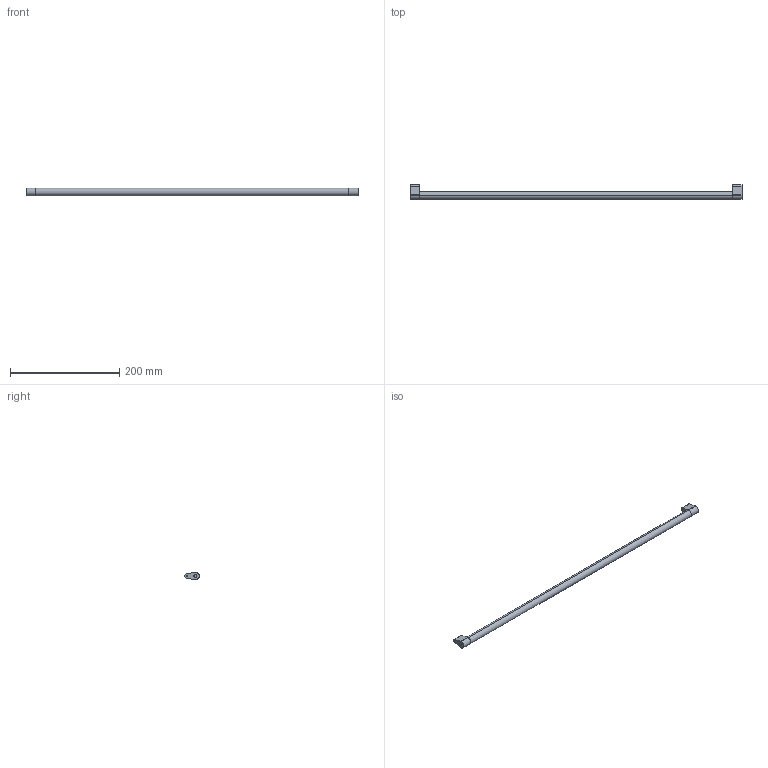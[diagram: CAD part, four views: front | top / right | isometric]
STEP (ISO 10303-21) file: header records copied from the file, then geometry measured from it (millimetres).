
FILE_DESCRIPTION (( 'STEP AP214' ), '1' );
FILE_NAME ('_Synchronisationseinheit DWD XP KAB700_S16.step', '2010-07-08T13:58:18', ( 'grass' ), ( '' ), 'SwSTEP 2.0', 'SolidWorks 2010', '' );
FILE_SCHEMA (( 'AUTOMOTIVE_DESIGN' ));
Length unit declared in the file: millimetre
Products named in the file (1): _Synchronisationseinheit DWD XP KAB700_S16
Bounding box: 607 x 26.5 x 14 mm (x, y, z)
Volume: 97127.2 mm3; surface area: 29544.2 mm2
Topology: 3 solids, 3 shells, 36 faces, 78 edges, 52 vertices
Faces by surface type: cylinder 18, plane 18
Entity records: 1050 total; most frequent: DIRECTION 188, CARTESIAN_POINT 167, ORIENTED_EDGE 156, EDGE_CURVE 78, AXIS2_PLACEMENT_3D 73, VERTEX_POINT 52, VECTOR 42, LINE 42
